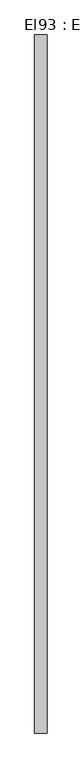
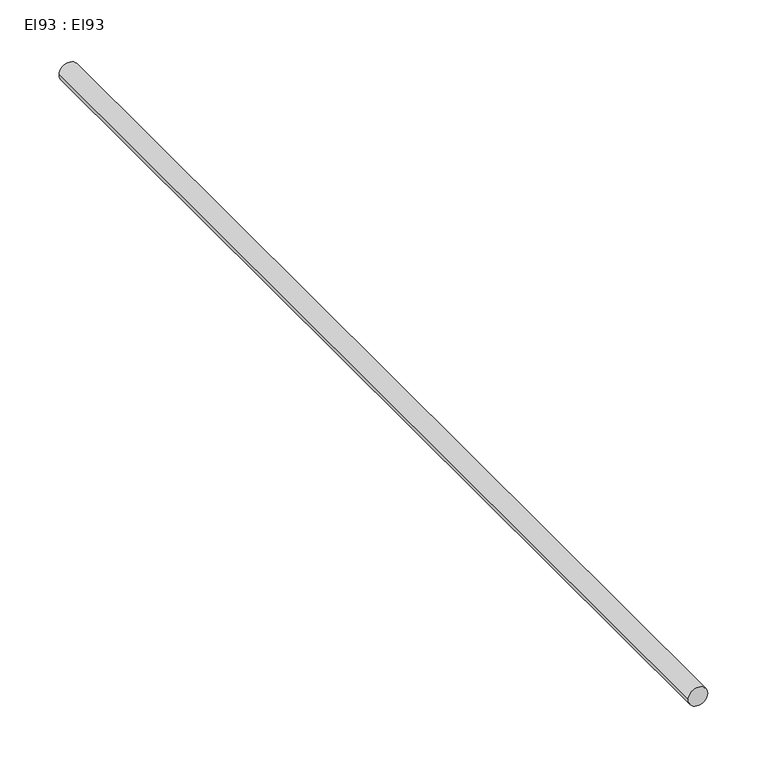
"""IFC4 building model written with IfcOpenShell, lengths in millimetres: cable carrier segment geometry, El93 : El93."""

from ifc_helpers import new_model, si_unit, point, frame, frame_2d, origin, place, context, project, spatial, circle_curve, trimmed, segment, composite_curve, outline, extrude, source, transform, mapped, element, save


def el93_el93_80a08c92(model_context):
    return source(origin(), model_context, "Body", "SweptSolid", [
        extrude(outline(composite_curve([segment(trimmed(circle_curve(frame_2d((300.0, 21030.0)), 9.5), [point((300.0, 21020.5))], [point((300.0, 21039.5))], False, "CARTESIAN"), True, "CONTINUOUS"), segment(trimmed(circle_curve(frame_2d((300.0, 21030.0)), 9.5), [point((300.0, 21039.5))], [point((300.0, 21020.5))], False, "CARTESIAN"), True, "CONTINUOUS")], self_intersect=False)), frame((0.0, 16367.705, 0.0), z_axis=(0.0, 1.0, 0.0), x_axis=(0.0, 0.0, 1.0)), (0.0, 0.0, 1.0), 1063.99),
    ])


if __name__ == "__main__":
    model = new_model("IFC4")
    model_context = context("Model", 3, world=origin())
    ifc_project = project(units=[si_unit("LENGTHUNIT", "METRE", prefix="MILLI")], contexts=[model_context])
    site = spatial("IfcSite", under=ifc_project)
    building = spatial("IfcBuilding", under=site)
    placement = place(None, origin())
    el93_el93_shape = el93_el93_80a08c92(model_context)
    element("IfcCableCarrierSegment", 1, ObjectType="El93 : El93", at=placement, inside=building, context=model_context, shape_type="MappedRepresentation", body=[
        mapped(el93_el93_shape, transform((0.0, 0.0, 0.0), x_axis=(1.0, 0.0, 0.0), y_axis=(0.0, 1.0, 0.0), z_axis=(0.0, 0.0, 1.0))),
    ])
    save(model, "model.ifc")
